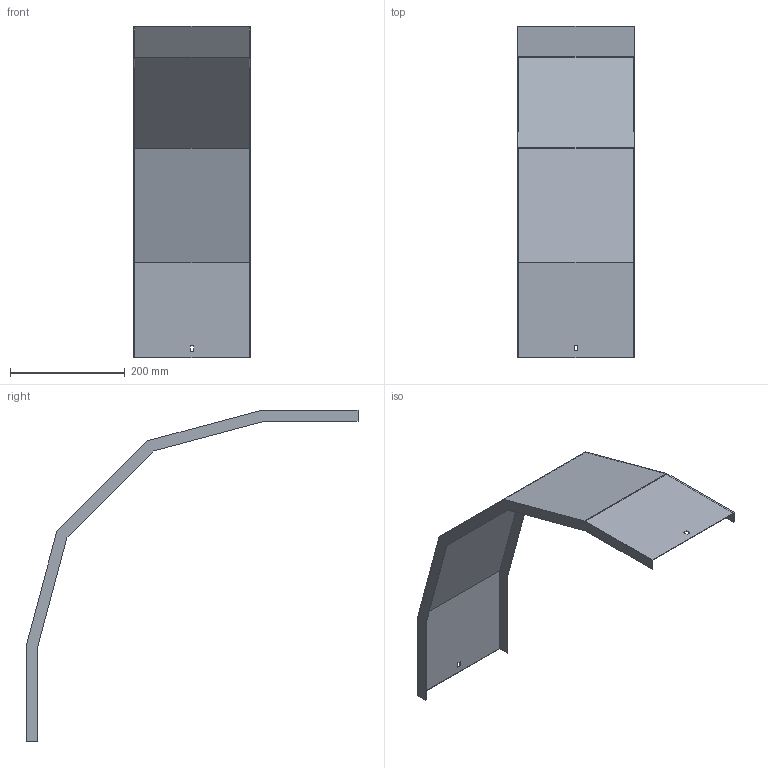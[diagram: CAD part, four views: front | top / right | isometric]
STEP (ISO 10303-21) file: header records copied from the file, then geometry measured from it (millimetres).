
FILE_DESCRIPTION (( 'STEP AP214' ), '1' );
FILE_NAME ('A2_33N3J200.step', '2025-02-21T10:45:26', ( '' ), ( '' ), 'SwSTEP 2.0', 'SolidWorks 2023', '' );
FILE_SCHEMA (( 'AUTOMOTIVE_DESIGN' ));
Length unit declared in the file: millimetre
Products named in the file (1): A2_33N3J200
Bounding box: 203 x 579.05 x 579.05 mm (x, y, z)
Volume: 348414.3 mm3; surface area: 468189.1 mm2
Topology: 1 solids, 1 shells, 34 faces, 96 edges, 64 vertices
Faces by surface type: plane 34
Entity records: 1111 total; most frequent: CARTESIAN_POINT 195, ORIENTED_EDGE 192, DIRECTION 166, VECTOR 96, EDGE_CURVE 96, LINE 96, VERTEX_POINT 64, EDGE_LOOP 38
